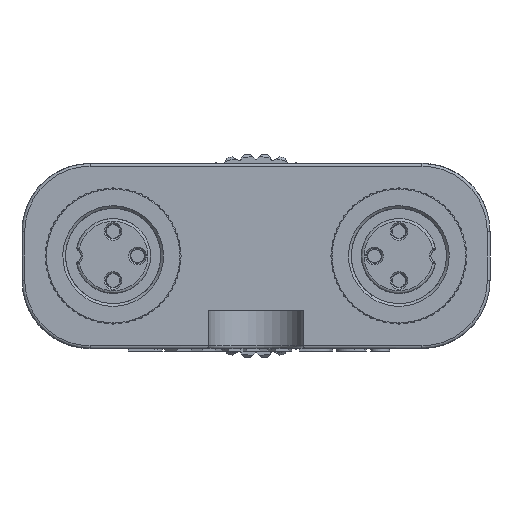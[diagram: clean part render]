
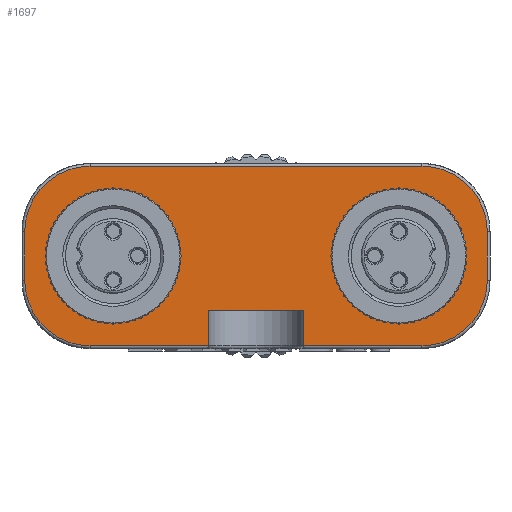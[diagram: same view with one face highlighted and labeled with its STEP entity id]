
A CAD part, left-side view. The second image highlights one B-rep face of the part: STEP entity #1697.
In plain terms, the highlighted planar face has unit normal (-1, 0, 0).
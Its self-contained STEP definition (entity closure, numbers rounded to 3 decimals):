
#718=FACE_BOUND('',#5203,.T.);
#719=FACE_BOUND('',#5204,.T.);
#720=FACE_BOUND('',#5205,.T.);
#1181=PLANE('',#25731);
#1697=ADVANCED_FACE('',(#718,#719,#720),#1181,.F.);
#5203=EDGE_LOOP('',(#11849));
#5204=EDGE_LOOP('',(#11850));
#5205=EDGE_LOOP('',(#11851,#11852,#11853,#11854,#11855,#11856,#11857,#11858,
#11859,#11860,#11861,#11862));
#7133=LINE('',#37480,#8571);
#7137=LINE('',#37546,#8575);
#7149=LINE('',#37676,#8587);
#7150=LINE('',#37677,#8588);
#7151=LINE('',#37678,#8589);
#7152=LINE('',#37682,#8590);
#7153=LINE('',#37686,#8591);
#7154=LINE('',#37690,#8592);
#8571=VECTOR('',#28801,1.);
#8575=VECTOR('',#28821,1.);
#8587=VECTOR('',#28873,1.);
#8588=VECTOR('',#28874,1.);
#8589=VECTOR('',#28875,1.);
#8590=VECTOR('',#28878,1.);
#8591=VECTOR('',#28881,1.);
#8592=VECTOR('',#28884,1.);
#10066=CIRCLE('',#25725,3.15);
#10067=CIRCLE('',#25726,3.15);
#10068=CIRCLE('',#25727,4.8);
#10069=CIRCLE('',#25728,4.8);
#10070=CIRCLE('',#25729,4.8);
#10071=CIRCLE('',#25730,4.8);
#11849=ORIENTED_EDGE('',*,*,#21395,.T.);
#11850=ORIENTED_EDGE('',*,*,#21396,.T.);
#11851=ORIENTED_EDGE('',*,*,#21397,.T.);
#11852=ORIENTED_EDGE('',*,*,#21398,.T.);
#11853=ORIENTED_EDGE('',*,*,#21371,.F.);
#11854=ORIENTED_EDGE('',*,*,#21399,.F.);
#11855=ORIENTED_EDGE('',*,*,#21358,.T.);
#11856=ORIENTED_EDGE('',*,*,#21400,.T.);
#11857=ORIENTED_EDGE('',*,*,#21401,.T.);
#11858=ORIENTED_EDGE('',*,*,#21402,.T.);
#11859=ORIENTED_EDGE('',*,*,#21403,.T.);
#11860=ORIENTED_EDGE('',*,*,#21404,.T.);
#11861=ORIENTED_EDGE('',*,*,#21405,.T.);
#11862=ORIENTED_EDGE('',*,*,#21406,.T.);
#19002=VERTEX_POINT('',#37479);
#19003=VERTEX_POINT('',#37481);
#19015=VERTEX_POINT('',#37547);
#19016=VERTEX_POINT('',#37548);
#19029=VERTEX_POINT('',#37670);
#19030=VERTEX_POINT('',#37672);
#19031=VERTEX_POINT('',#37674);
#19032=VERTEX_POINT('',#37675);
#19033=VERTEX_POINT('',#37679);
#19034=VERTEX_POINT('',#37681);
#19035=VERTEX_POINT('',#37683);
#19036=VERTEX_POINT('',#37685);
#19037=VERTEX_POINT('',#37687);
#19038=VERTEX_POINT('',#37689);
#21358=EDGE_CURVE('',#19003,#19002,#7133,.T.);
#21371=EDGE_CURVE('',#19015,#19016,#7137,.T.);
#21395=EDGE_CURVE('',#19029,#19029,#10066,.T.);
#21396=EDGE_CURVE('',#19030,#19030,#10067,.T.);
#21397=EDGE_CURVE('',#19031,#19032,#10068,.T.);
#21398=EDGE_CURVE('',#19032,#19016,#7149,.T.);
#21399=EDGE_CURVE('',#19003,#19015,#7150,.T.);
#21400=EDGE_CURVE('',#19002,#19033,#7151,.T.);
#21401=EDGE_CURVE('',#19033,#19034,#10069,.T.);
#21402=EDGE_CURVE('',#19034,#19035,#7152,.T.);
#21403=EDGE_CURVE('',#19035,#19036,#10070,.T.);
#21404=EDGE_CURVE('',#19036,#19037,#7153,.T.);
#21405=EDGE_CURVE('',#19037,#19038,#10071,.T.);
#21406=EDGE_CURVE('',#19038,#19031,#7154,.T.);
#25725=AXIS2_PLACEMENT_3D('',#37669,#28867,#28868);
#25726=AXIS2_PLACEMENT_3D('',#37671,#28869,#28870);
#25727=AXIS2_PLACEMENT_3D('',#37673,#28871,#28872);
#25728=AXIS2_PLACEMENT_3D('',#37680,#28876,#28877);
#25729=AXIS2_PLACEMENT_3D('',#37684,#28879,#28880);
#25730=AXIS2_PLACEMENT_3D('',#37688,#28882,#28883);
#25731=AXIS2_PLACEMENT_3D('',#37691,#28885,#28886);
#28801=DIRECTION('',(0.,0.,-1.));
#28821=DIRECTION('',(0.,0.,-1.));
#28867=DIRECTION('',(1.,0.,0.));
#28868=DIRECTION('',(0.,0.,-1.));
#28869=DIRECTION('',(1.,0.,0.));
#28870=DIRECTION('',(0.,0.,-1.));
#28871=DIRECTION('',(-1.,0.,0.));
#28872=DIRECTION('',(0.,0.,-1.));
#28873=DIRECTION('',(0.,-1.,0.));
#28874=DIRECTION('',(0.,1.,0.));
#28875=DIRECTION('',(0.,-1.,0.));
#28876=DIRECTION('',(-1.,0.,0.));
#28877=DIRECTION('',(0.,0.,-1.));
#28878=DIRECTION('',(0.,0.,1.));
#28879=DIRECTION('',(-1.,0.,0.));
#28880=DIRECTION('',(0.,0.,-1.));
#28881=DIRECTION('',(0.,1.,0.));
#28882=DIRECTION('',(-1.,0.,0.));
#28883=DIRECTION('',(0.,0.,-1.));
#28884=DIRECTION('',(0.,0.,-1.));
#28885=DIRECTION('',(1.,0.,0.));
#28886=DIRECTION('',(0.,0.,1.));
#37479=CARTESIAN_POINT('',(0.,15.5,0.2));
#37480=CARTESIAN_POINT('',(0.,15.5,0.));
#37481=CARTESIAN_POINT('',(0.,15.5,2.8));
#37546=CARTESIAN_POINT('',(0.,22.5,0.));
#37547=CARTESIAN_POINT('',(0.,22.5,2.8));
#37548=CARTESIAN_POINT('',(0.,22.5,0.2));
#37669=CARTESIAN_POINT('',(0.,29.5,6.8));
#37670=CARTESIAN_POINT('',(0.,29.5,3.65));
#37671=CARTESIAN_POINT('',(0.,8.5,6.8));
#37672=CARTESIAN_POINT('',(0.,8.5,3.65));
#37673=CARTESIAN_POINT('',(0.,31.2,5.));
#37674=CARTESIAN_POINT('',(0.,36.,5.));
#37675=CARTESIAN_POINT('',(0.,31.2,0.2));
#37676=CARTESIAN_POINT('',(0.,0.,0.2));
#37677=CARTESIAN_POINT('',(0.,19.,2.8));
#37678=CARTESIAN_POINT('',(0.,0.,0.2));
#37679=CARTESIAN_POINT('',(0.,6.8,0.2));
#37680=CARTESIAN_POINT('',(0.,6.8,5.));
#37681=CARTESIAN_POINT('',(0.,2.,5.));
#37682=CARTESIAN_POINT('',(0.,2.,0.));
#37683=CARTESIAN_POINT('',(0.,2.,8.6));
#37684=CARTESIAN_POINT('',(0.,6.8,8.6));
#37685=CARTESIAN_POINT('',(0.,6.8,13.4));
#37686=CARTESIAN_POINT('',(0.,0.,13.4));
#37687=CARTESIAN_POINT('',(0.,31.2,13.4));
#37688=CARTESIAN_POINT('',(0.,31.2,8.6));
#37689=CARTESIAN_POINT('',(0.,36.,8.6));
#37690=CARTESIAN_POINT('',(0.,36.,0.));
#37691=CARTESIAN_POINT('',(0.,0.,0.));
